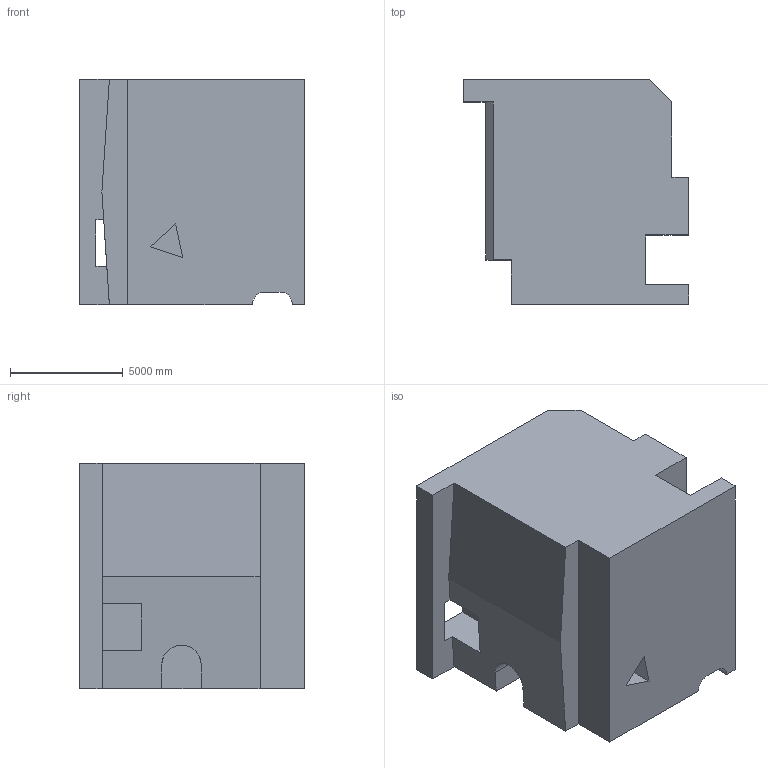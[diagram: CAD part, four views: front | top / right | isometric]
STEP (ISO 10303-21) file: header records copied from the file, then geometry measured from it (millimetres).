
FILE_DESCRIPTION (( 'STEP AP203' ), '1' );
FILE_NAME ('192.STEP', '2022-09-06T16:19:40', ( 'user' ), ( '' ), 'SwSTEP 2.0', 'SolidWorks 2021', '' );
FILE_SCHEMA (( 'CONFIG_CONTROL_DESIGN' ));
Length unit declared in the file: centimetre
Products named in the file (1): 192
Bounding box: 10000 x 10000 x 10000 mm (x, y, z)
Volume: 721493473585.8 mm3; surface area: 665886996.8 mm2
Topology: 1 solids, 1 shells, 46 faces, 129 edges, 86 vertices
Faces by surface type: plane 41, cylinder 5
Entity records: 1544 total; most frequent: CARTESIAN_POINT 268, ORIENTED_EDGE 258, DIRECTION 231, EDGE_CURVE 129, LINE 117, VECTOR 117, VERTEX_POINT 86, AXIS2_PLACEMENT_3D 57
